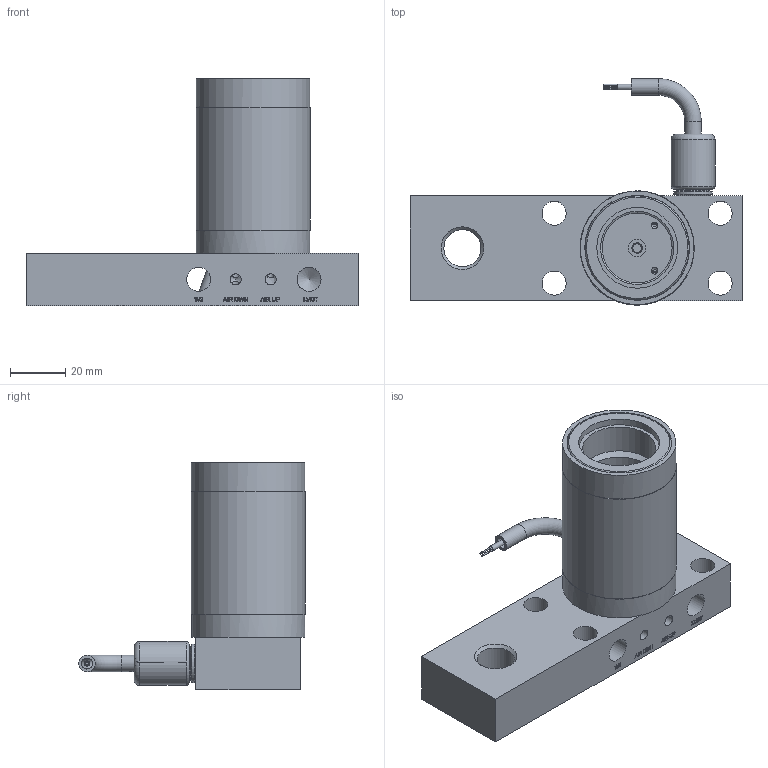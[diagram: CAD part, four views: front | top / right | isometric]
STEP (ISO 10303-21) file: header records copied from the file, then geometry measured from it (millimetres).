
FILE_DESCRIPTION(/* description */ ('ASSY,BODY,VF,LVDT,SXHR4,NHP'),/* implementation_level */ '2;1');
FILE_NAME(/* name */ 'C:\LVDT UPDATES\ASSY,BODY,VF,LVDT,SXHR4,NHP_0000838917.stp',/* time_stamp */ '2017-06-09T11:54:03-04:00',/* author */ ('tim.mcwilliams'),/* organization */ (''),/* preprocessor_version */ 'ST-DEVELOPER v16.5',/* originating_system */ 'Autodesk Inventor 2017',/* authorisation */ '');
FILE_SCHEMA (('AUTOMOTIVE_DESIGN { 1 0 10303 214 3 1 1 }'));
Length unit declared in the file: millimetre
Products named in the file (1): ASSY,BODY,VF,LVDT,SXHR4,NHP
Bounding box: 120.65 x 82.34 x 82.55 mm (x, y, z)
Volume: 142660.9 mm3; surface area: 61278.6 mm2
Topology: 3 solids, 8 shells, 1228 faces, 3227 edges, 2133 vertices
Faces by surface type: plane 615, bspline 413, cylinder 134, cone 48, torus 12, sphere 6
Full cylindrical faces by diameter (mm): 0.5 x4, 0.55 x4, 2 x1, 2.381 x2, 3.15 x2, 3.175 x4, 3.81 x1, 3.962 x4, 4 x3, 4.763 x3, 6 x3, 6.35 x1, 8 x1, 8.731 x8, 10 x1, 12.01 x1, 12.141 x1, 12.7 x2, 13.487 x1, 13.665 x1, 13.716 x1, 14 x2, 15.206 x1, 16 x1, 25.425 x1, 26.591 x1, 29.369 x1, 35.103 x3, 37.846 x4, 38.1 x2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
Entity records: 93277 total; most frequent: CARTESIAN_POINT 64876, ORIENTED_EDGE 6096, DIRECTION 4322, EDGE_CURVE 3047, VERTEX_POINT 2064, LINE 1800, VECTOR 1800, EDGE_LOOP 1491
